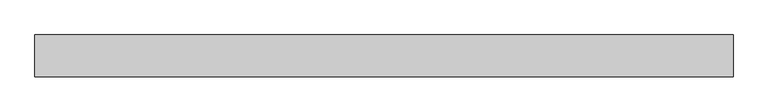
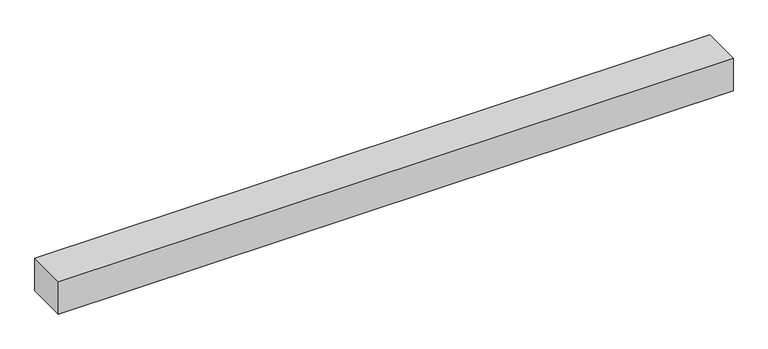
"""IFC4 building model written with IfcOpenShell, lengths in millimetres: plate geometry, Panel del sistema vacío : Vacío."""

from ifc_helpers import new_model, si_unit, origin, origin_with_axes, place, context, project, spatial, polyline, outline, extrude, source, transform, mapped, element, save


def plate_64fcae3b(model_context):
    return source(origin(), model_context, "Body", "SweptSolid", [
        extrude(outline(polyline([(835.0, 50.0), (-835.0, 50.0), (-835.0, 150.0), (835.0, 150.0), (835.0, 50.0)])), origin_with_axes(), (0.0, 0.0, 1.0), 84.9668874),
    ])


if __name__ == "__main__":
    model = new_model("IFC4")
    model_context = context("Model", 3, world=origin())
    ifc_project = project(units=[si_unit("LENGTHUNIT", "METRE", prefix="MILLI")], contexts=[model_context])
    site = spatial("IfcSite", under=ifc_project)
    building = spatial("IfcBuilding", under=site)
    placement = place(None, origin())
    plate_shape = plate_64fcae3b(model_context)
    element("IfcPlate", 1, ObjectType="Panel del sistema vacío : Vacío", at=placement, inside=building, context=model_context, shape_type="MappedRepresentation", body=[
        mapped(plate_shape, transform((0.0, 0.0, 0.0), x_axis=(1.0, 0.0, 0.0), y_axis=(0.0, 1.0, 0.0), z_axis=(0.0, 0.0, 1.0))),
    ])
    save(model, "model.ifc")
